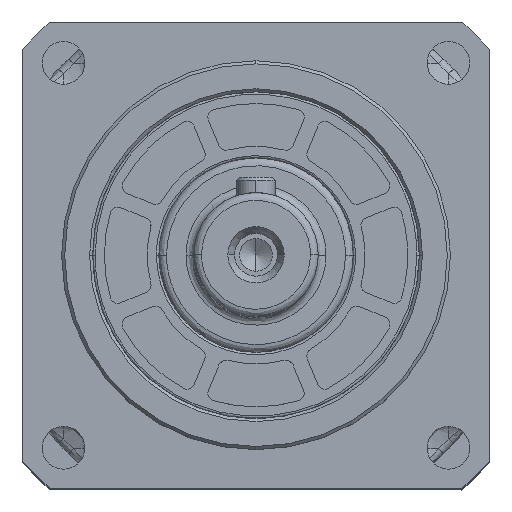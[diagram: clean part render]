
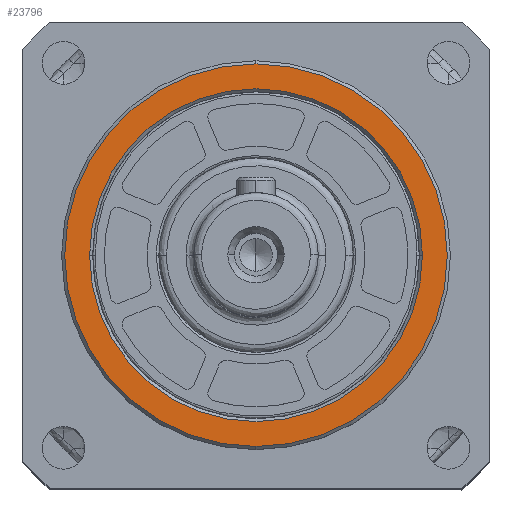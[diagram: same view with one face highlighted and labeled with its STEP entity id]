
A CAD part, top view. The second image highlights one B-rep face of the part: STEP entity #23796.
In plain terms, the highlighted planar face has unit normal (0, 0, 1).
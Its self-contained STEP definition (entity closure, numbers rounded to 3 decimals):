
#755 = PLANE ( 'NONE',  #57400 ) ;
#2651 = CARTESIAN_POINT ( 'NONE',  ( -24.895, -24.895, 43. ) ) ;
#2759 = DIRECTION ( 'NONE',  ( 0., 0., 1. ) ) ;
#2840 = DIRECTION ( 'NONE',  ( 1., 0., 0. ) ) ;
#3832 = EDGE_CURVE ( 'NONE', #58404, #42142, #41862, .T. ) ;
#4079 = AXIS2_PLACEMENT_3D ( 'NONE', #37588, #37603, #38044 ) ;
#4609 = CIRCLE ( 'NONE', #4079, 24.6 ) ;
#6858 = EDGE_CURVE ( 'NONE', #62928, #37396, #4609, .T. ) ;
#6946 = EDGE_CURVE ( 'NONE', #42142, #58404, #24706, .T. ) ;
#12341 = EDGE_LOOP ( 'NONE', ( #53421, #52945 ) ) ;
#15370 = FACE_OUTER_BOUND ( 'NONE', #12341, .T. ) ;
#16914 = CARTESIAN_POINT ( 'NONE',  ( 0., -24.6, 43. ) ) ;
#18327 = DIRECTION ( 'NONE',  ( 0., 0., 1. ) ) ;
#23796 = ADVANCED_FACE ( 'NONE', ( #42036, #15370 ), #755, .T. ) ;
#24706 = CIRCLE ( 'NONE', #36522, 21.4 ) ;
#27197 = AXIS2_PLACEMENT_3D ( 'NONE', #50252, #18327, #55661 ) ;
#32313 = ORIENTED_EDGE ( 'NONE', *, *, #3832, .T. ) ;
#36522 = AXIS2_PLACEMENT_3D ( 'NONE', #49680, #49660, #49762 ) ;
#37396 = VERTEX_POINT ( 'NONE', #16914 ) ;
#37588 = CARTESIAN_POINT ( 'NONE',  ( 0., 0., 43. ) ) ;
#37603 = DIRECTION ( 'NONE',  ( 0., 0., 1. ) ) ;
#38044 = DIRECTION ( 'NONE',  ( 0., 1., 0. ) ) ;
#38251 = CARTESIAN_POINT ( 'NONE',  ( -21.4, 0., 43. ) ) ;
#41862 = CIRCLE ( 'NONE', #48760, 21.4 ) ;
#42036 = FACE_BOUND ( 'NONE', #67477, .T. ) ;
#42142 = VERTEX_POINT ( 'NONE', #54494 ) ;
#48646 = CARTESIAN_POINT ( 'NONE',  ( 0., 0., 43. ) ) ;
#48742 = DIRECTION ( 'NONE',  ( 0., 0., -1. ) ) ;
#48760 = AXIS2_PLACEMENT_3D ( 'NONE', #48646, #48742, #48843 ) ;
#48843 = DIRECTION ( 'NONE',  ( 1., 0., 0. ) ) ;
#49660 = DIRECTION ( 'NONE',  ( 0., 0., -1. ) ) ;
#49680 = CARTESIAN_POINT ( 'NONE',  ( 0., 0., 43. ) ) ;
#49762 = DIRECTION ( 'NONE',  ( 1., 0., 0. ) ) ;
#50252 = CARTESIAN_POINT ( 'NONE',  ( 0., 0., 43. ) ) ;
#52945 = ORIENTED_EDGE ( 'NONE', *, *, #64241, .T. ) ;
#53082 = CARTESIAN_POINT ( 'NONE',  ( 0., 24.6, 43. ) ) ;
#53421 = ORIENTED_EDGE ( 'NONE', *, *, #6858, .T. ) ;
#54494 = CARTESIAN_POINT ( 'NONE',  ( 21.4, 0., 43. ) ) ;
#55661 = DIRECTION ( 'NONE',  ( 0., 1., 0. ) ) ;
#57400 = AXIS2_PLACEMENT_3D ( 'NONE', #2651, #2759, #2840 ) ;
#58016 = CIRCLE ( 'NONE', #27197, 24.6 ) ;
#58404 = VERTEX_POINT ( 'NONE', #38251 ) ;
#62546 = ORIENTED_EDGE ( 'NONE', *, *, #6946, .T. ) ;
#62928 = VERTEX_POINT ( 'NONE', #53082 ) ;
#64241 = EDGE_CURVE ( 'NONE', #37396, #62928, #58016, .T. ) ;
#67477 = EDGE_LOOP ( 'NONE', ( #62546, #32313 ) ) ;
